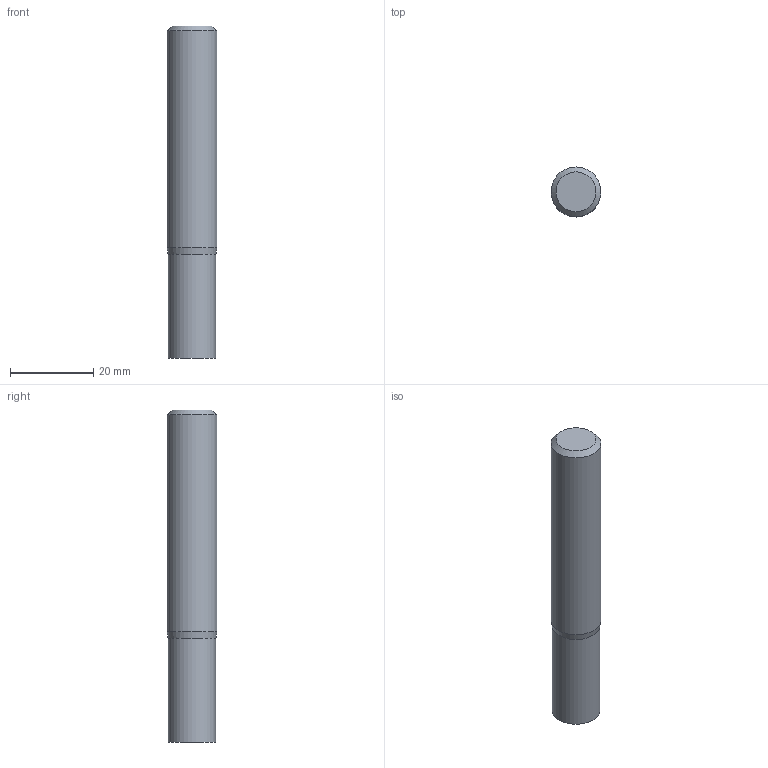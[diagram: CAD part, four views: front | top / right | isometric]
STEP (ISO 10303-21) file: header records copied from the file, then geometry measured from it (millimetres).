
FILE_DESCRIPTION((''),'2;1');
FILE_NAME('C:\Users\nsx150\AppData\Local\Temp\Mastercam 2021\98T1Q6BTT1\TEMP.step','2021-10-21T14:50:26',(''),(''),'STEP Write','Mastercam 2021 ... CNC Software, Inc.','');
FILE_SCHEMA(('AUTOMOTIVE_DESIGN'));
Length unit declared in the file: millimetre
Products named in the file (1): None
Bounding box: 12 x 12 x 80 mm (x, y, z)
Volume: 8784.4 mm3; surface area: 3372.5 mm2
Topology: 2 solids, 2 shells, 8 faces, 10 edges, 6 vertices
Faces by surface type: plane 4, cylinder 2, cone 2
Full cylindrical faces by diameter (mm): 11.5 x1, 12 x1
Entity records: 190 total; most frequent: DIRECTION 32, CARTESIAN_POINT 22, AXIS2_PLACEMENT_3D 16, ORIENTED_EDGE 12, EDGE_LOOP 12, STYLED_ITEM 11, ADVANCED_FACE 8, VERTEX_POINT 6
